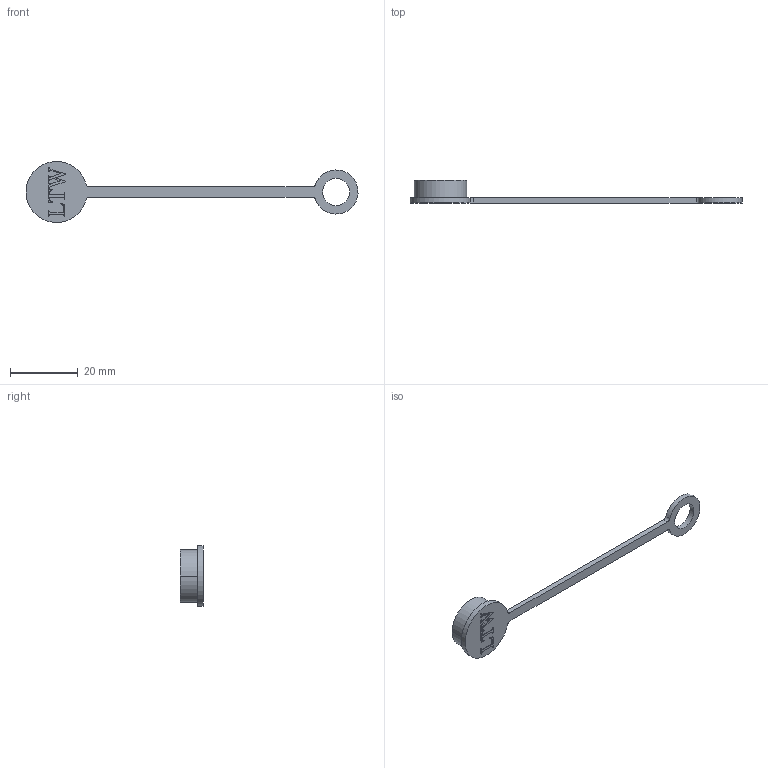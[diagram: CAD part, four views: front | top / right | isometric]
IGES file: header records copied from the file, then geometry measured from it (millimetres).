
Start section:  PTC IGES file: cap-dabmdcc2.igs
Global section: file name: cap-dabmdcc2.igs; native system: Creo Parametric by Parametric Technology Corporation; preprocessor: 2017170; author: L210025; organization: Unknown; date: 20210715.101059; units: inch
Bounding box: 97.98 x 6.9 x 17.98 mm (x, y, z)
Surface area: 2197.9 mm2 (no closed solid volume)
Topology: 0 solids, 4 shells, 27 faces, 206 edges, 186 vertices
Faces by surface type: revolution 16, bspline 11
